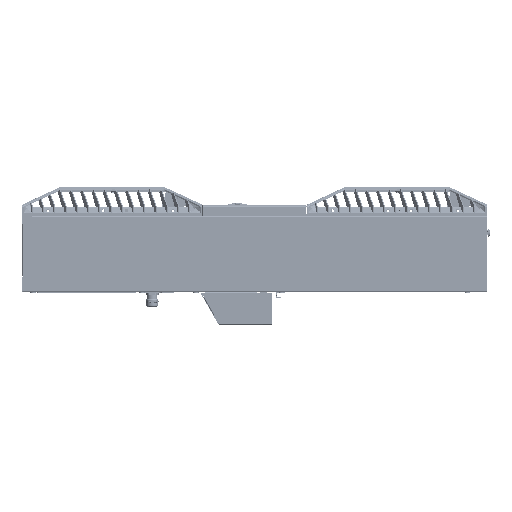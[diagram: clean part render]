
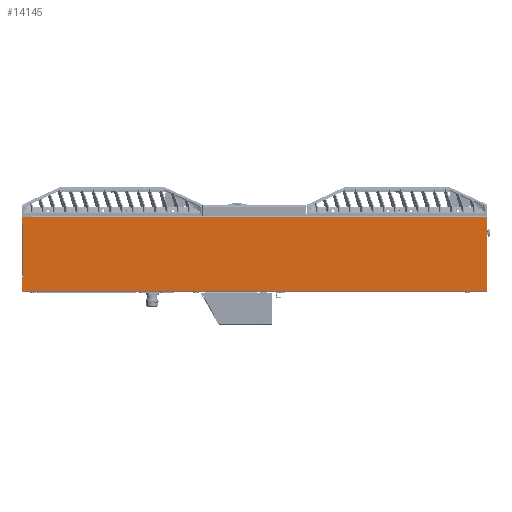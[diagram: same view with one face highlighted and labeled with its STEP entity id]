
A CAD part, left-side view. The second image highlights one B-rep face of the part: STEP entity #14145.
In plain terms, the highlighted planar face has unit normal (-1, 0, 0).
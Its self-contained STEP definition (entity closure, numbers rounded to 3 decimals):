
#4126=CARTESIAN_POINT('',(-152.5,949.,2.));
#4128=DIRECTION('',(0.,-1.,0.));
#4129=VECTOR('',#4128,949.);
#4130=CARTESIAN_POINT('',(-152.5,949.,2.));
#4131=LINE('',#4130,#4129);
#4132=DIRECTION('',(0.,0.866,0.5));
#4133=VECTOR('',#4132,2.309);
#4134=CARTESIAN_POINT('',(-152.5,947.,138.));
#4135=LINE('',#4134,#4133);
#4136=DIRECTION('',(0.,0.,1.));
#4137=VECTOR('',#4136,13.845);
#4138=CARTESIAN_POINT('',(-152.5,949.,139.155));
#4139=LINE('',#4138,#4137);
#4140=CARTESIAN_POINT('',(-152.5,949.,153.));
#4141=CARTESIAN_POINT('',(-152.5,948.971,153.305));
#4142=CARTESIAN_POINT('',(-152.5,948.776,153.776));
#4143=CARTESIAN_POINT('',(-152.5,948.305,153.971));
#4144=CARTESIAN_POINT('',(-152.5,948.,154.));
#4146=DIRECTION('',(0.,0.,1.));
#4147=VECTOR('',#4146,28.845);
#4148=CARTESIAN_POINT('',(-152.5,949.,2.));
#4149=LINE('',#4148,#4147);
#4150=DIRECTION('',(0.,-0.866,0.5));
#4151=VECTOR('',#4150,2.309);
#4152=CARTESIAN_POINT('',(-152.5,949.,30.845));
#4153=LINE('',#4152,#4151);
#4168=DIRECTION('',(0.,0.,-1.));
#4169=VECTOR('',#4168,106.);
#4170=CARTESIAN_POINT('',(-152.5,947.,138.));
#4171=LINE('',#4170,#4169);
#4305=DIRECTION('',(0.,0.,1.));
#4306=VECTOR('',#4305,151.);
#4307=CARTESIAN_POINT('',(-152.5,0.,2.));
#4308=LINE('',#4307,#4306);
#4335=DIRECTION('',(0.,1.,0.));
#4336=VECTOR('',#4335,930.);
#4337=CARTESIAN_POINT('',(-152.5,0.,153.));
#4338=LINE('',#4337,#4336);
#4347=DIRECTION('',(0.,0.,1.));
#4348=VECTOR('',#4347,1.);
#4349=CARTESIAN_POINT('',(-152.5,930.,153.));
#4350=LINE('',#4349,#4348);
#4351=DIRECTION('',(0.,1.,0.));
#4352=VECTOR('',#4351,18.);
#4353=CARTESIAN_POINT('',(-152.5,930.,154.));
#4354=LINE('',#4353,#4352);
#8903=VERTEX_POINT('',#4126);
#8905=CARTESIAN_POINT('',(-152.5,0.,2.));
#8906=VERTEX_POINT('',#8905);
#8907=CARTESIAN_POINT('',(-152.5,947.,138.));
#8908=CARTESIAN_POINT('',(-152.5,949.,139.155));
#8909=VERTEX_POINT('',#8907);
#8910=VERTEX_POINT('',#8908);
#8911=CARTESIAN_POINT('',(-152.5,949.,153.));
#8912=VERTEX_POINT('',#8911);
#8913=VERTEX_POINT('',#4144);
#8914=CARTESIAN_POINT('',(-152.5,930.,154.));
#8915=VERTEX_POINT('',#8914);
#8916=CARTESIAN_POINT('',(-152.5,930.,153.));
#8917=VERTEX_POINT('',#8916);
#8918=CARTESIAN_POINT('',(-152.5,0.,153.));
#8919=VERTEX_POINT('',#8918);
#8920=CARTESIAN_POINT('',(-152.5,949.,30.845));
#8921=VERTEX_POINT('',#8920);
#8922=CARTESIAN_POINT('',(-152.5,947.,32.));
#8923=VERTEX_POINT('',#8922);
#14117=CARTESIAN_POINT('',(-152.5,0.,171.));
#14118=DIRECTION('',(-1.,0.,0.));
#14119=DIRECTION('',(0.,0.,-1.));
#14120=AXIS2_PLACEMENT_3D('',#14117,#14118,#14119);
#14121=PLANE('',#14120);
#14123=ORIENTED_EDGE('',*,*,#14122,.T.);
#14125=ORIENTED_EDGE('',*,*,#14124,.T.);
#14127=ORIENTED_EDGE('',*,*,#14126,.T.);
#14129=ORIENTED_EDGE('',*,*,#14128,.F.);
#14131=ORIENTED_EDGE('',*,*,#14130,.F.);
#14133=ORIENTED_EDGE('',*,*,#14132,.F.);
#14135=ORIENTED_EDGE('',*,*,#14134,.F.);
#14136=ORIENTED_EDGE('',*,*,#14110,.F.);
#14138=ORIENTED_EDGE('',*,*,#14137,.T.);
#14140=ORIENTED_EDGE('',*,*,#14139,.T.);
#14142=ORIENTED_EDGE('',*,*,#14141,.F.);
#14143=EDGE_LOOP('',(#14123,#14125,#14127,#14129,#14131,#14133,#14135,#14136,
#14138,#14140,#14142));
#14144=FACE_OUTER_BOUND('',#14143,.F.);
#14145=ADVANCED_FACE('',(#14144),#14121,.T.);
#4145=B_SPLINE_CURVE_WITH_KNOTS('',3,(#4140,#4141,#4142,#4143,#4144),
.UNSPECIFIED.,.F.,.F.,(4,1,4),(0.,0.5,1.),.UNSPECIFIED.);
#14110=EDGE_CURVE('',#8903,#8906,#4131,.T.);
#14122=EDGE_CURVE('',#8909,#8910,#4135,.T.);
#14124=EDGE_CURVE('',#8910,#8912,#4139,.T.);
#14126=EDGE_CURVE('',#8912,#8913,#4145,.T.);
#14128=EDGE_CURVE('',#8915,#8913,#4354,.T.);
#14130=EDGE_CURVE('',#8917,#8915,#4350,.T.);
#14132=EDGE_CURVE('',#8919,#8917,#4338,.T.);
#14134=EDGE_CURVE('',#8906,#8919,#4308,.T.);
#14137=EDGE_CURVE('',#8903,#8921,#4149,.T.);
#14139=EDGE_CURVE('',#8921,#8923,#4153,.T.);
#14141=EDGE_CURVE('',#8909,#8923,#4171,.T.);
